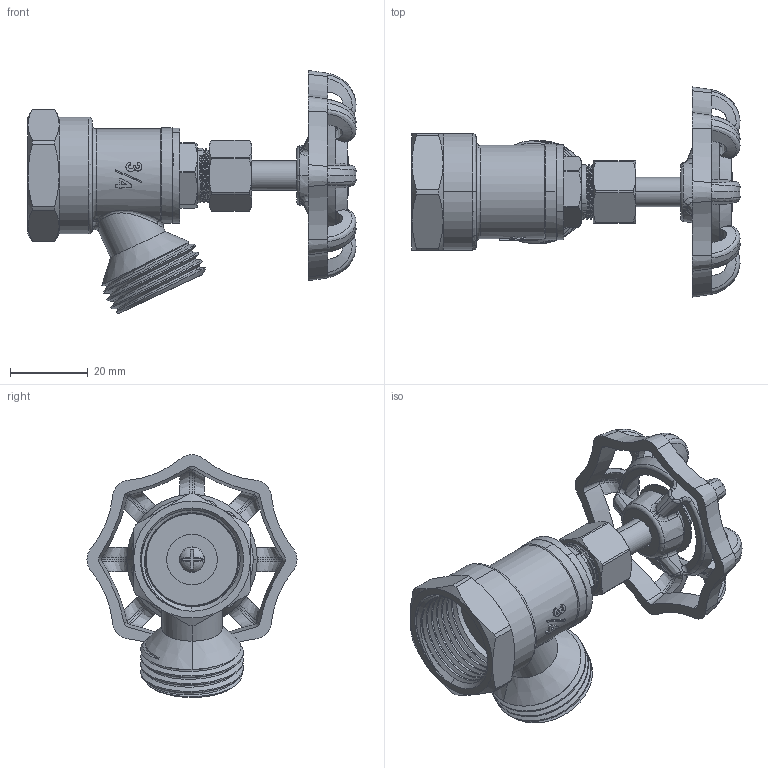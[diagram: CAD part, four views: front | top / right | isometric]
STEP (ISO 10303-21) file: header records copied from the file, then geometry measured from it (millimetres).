
FILE_DESCRIPTION((''),'2;1');
FILE_NAME('16-01544-N20-CP20-3021_ASM','2022-03-18T',('Administrator'),(''),'PRO/ENGINEER BY PARAMETRIC TECHNOLOGY CORPORATION, 2015240','PRO/ENGINEER BY PARAMETRIC TECHNOLOGY CORPORATION, 2015240','');
FILE_SCHEMA(('CONFIG_CONTROL_DESIGN'));
Products named in the file (12): 16-01544-N20-0820; 16-02541-N15-1820; 16-02541-N15-4A00; 16-02541-N15-23; 27-02560-06J-22; 16-02541-N15-67; 10-02211-16J-6200; 24-03540-N20-716C; 14-06530-N15-64-3021; 10-01029-N08-620E; 16-02541-N15-5100; 16-01544-N20-CP20-3021_ASM
Assembly tree (11 placements, depth 2):
  16-01544-N20-CP20-3021_ASM
    16-01544-N20-0820
    16-02541-N15-1820
    16-02541-N15-4A00
    16-02541-N15-23
    27-02560-06J-22
    16-02541-N15-67
    10-02211-16J-6200
    24-03540-N20-716C
    14-06530-N15-64-3021
    10-01029-N08-620E
    16-02541-N15-5100
Bounding box: 84.26 x 54 x 62.43 mm (x, y, z)
Volume: 25948.4 mm3; surface area: 26754.7 mm2
Topology: 11 solids, 11 shells, 1004 faces, 2626 edges, 1666 vertices
Faces by surface type: plane 280, bspline 271, cylinder 221, cone 146, extrusion 63, torus 21, sphere 2
Entity records: 65760 total; most frequent: CARTESIAN_POINT 43387, ORIENTED_EDGE 5248, DIRECTION 3545, EDGE_CURVE 2624, VERTEX_POINT 1666, AXIS2_PLACEMENT_3D 1245, B_SPLINE_CURVE_WITH_KNOTS 1143, EDGE_LOOP 1068
